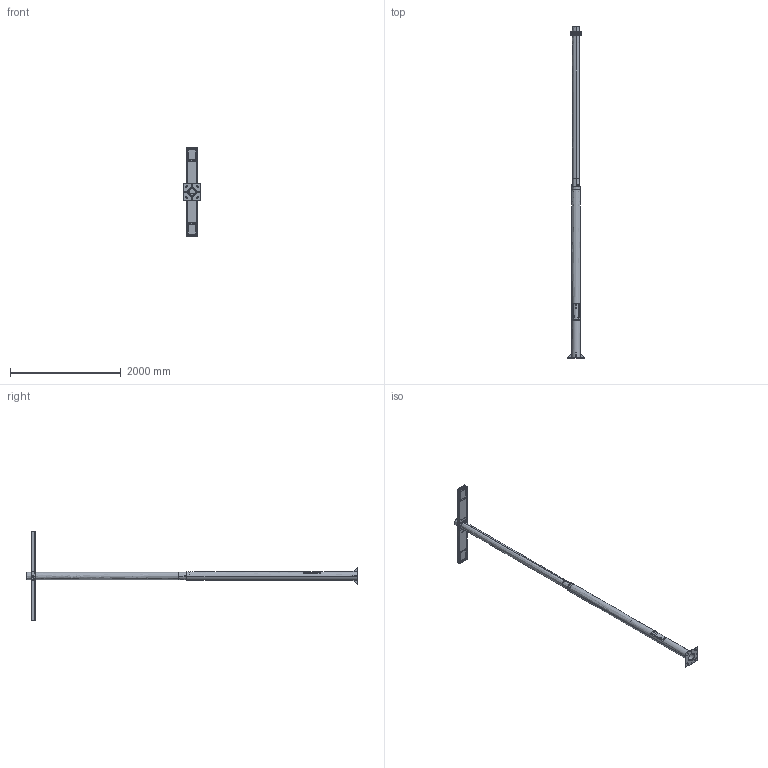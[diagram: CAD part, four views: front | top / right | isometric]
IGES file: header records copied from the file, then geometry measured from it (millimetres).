
Start section: SolidWorks IGES file using analytic representation for surfaces
Global section: file name: C:\SANTACOLE_PDM\Proyectos Catálogo\PROD-P08-042 -- RAMA LED\6_Técnico comercial\3D WEB\FAROLA RAMA LED 6.0M 2 LUMINARIAS MISMA ALTURA 2 SECCIONES.IGS; native system: SolidWorks 2013; preprocessor: SolidWorks 2013; author: MarioV; date: 150331.131955; units: millimetre
Bounding box: 300 x 6000 x 1626 mm (x, y, z)
Volume: 13031183 mm3; surface area: 7630452.4 mm2
Topology: 57 solids, 57 shells, 6324 faces, 17291 edges, 11118 vertices
Faces by surface type: plane 4334, revolution 1340, bspline 650
